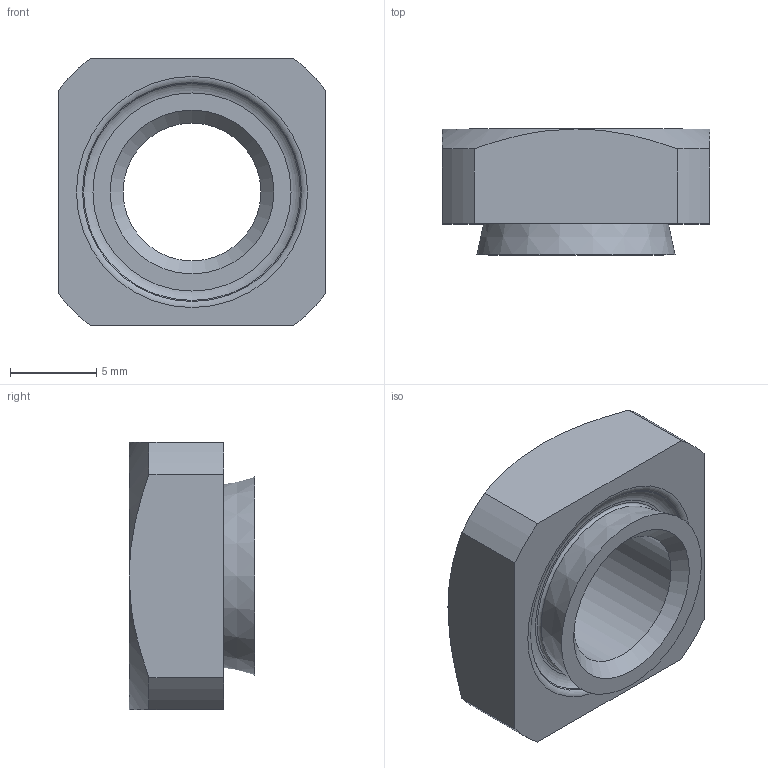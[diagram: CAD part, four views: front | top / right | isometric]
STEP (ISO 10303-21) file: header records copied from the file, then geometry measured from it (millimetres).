
FILE_DESCRIPTION(/* description */ (''),/* implementation_level */ '2;1');
FILE_NAME(/* name */ 'D:\Sukhmani\Fastit\HN Nut\HN 8-2.3.stp',/* time_stamp */ '2024-03-14T12:23:21+06:00',/* author */ ('edc.sukhmani'),/* organization */ (''),/* preprocessor_version */ 'ST-DEVELOPER v18.1',/* originating_system */ 'Autodesk Inventor 2022',/* authorisation */ '');
FILE_SCHEMA (('AUTOMOTIVE_DESIGN { 1 0 10303 214 3 1 1 }'));
Length unit declared in the file: millimetre
Products named in the file (1): HN 8-2.3
Bounding box: 15.52 x 7.3 x 15.52 mm (x, y, z)
Volume: 1039.9 mm3; surface area: 927.4 mm2
Topology: 1 solids, 1 shells, 25 faces, 58 edges, 37 vertices
Faces by surface type: cone 8, plane 8, cylinder 6, torus 3
Full cylindrical faces by diameter (mm): 8 x1, 9.5 x1
Entity records: 763 total; most frequent: CARTESIAN_POINT 137, DIRECTION 134, ORIENTED_EDGE 116, EDGE_CURVE 58, AXIS2_PLACEMENT_3D 58, VERTEX_POINT 37, CIRCLE 32, EDGE_LOOP 29
